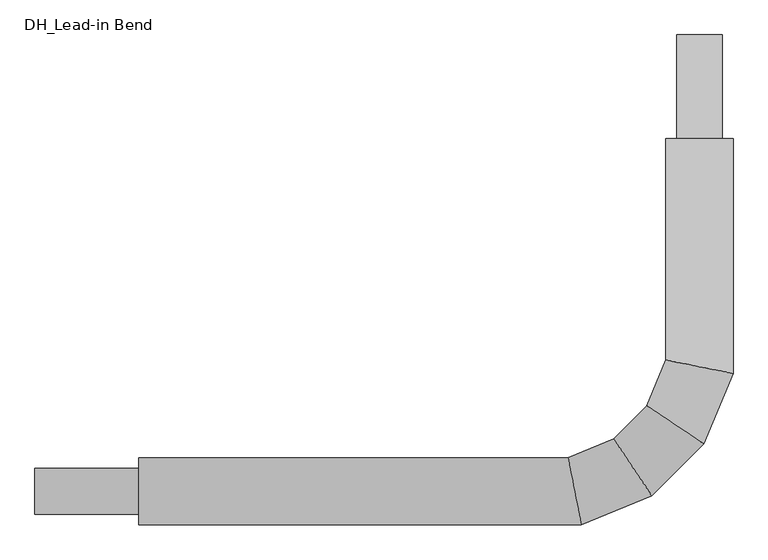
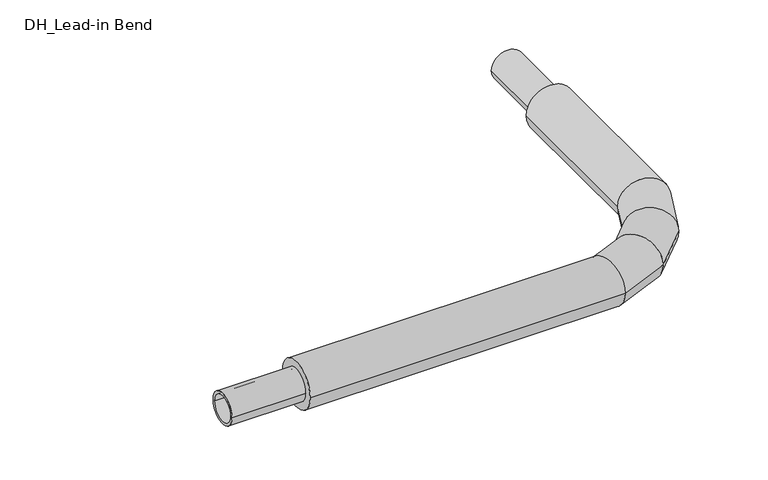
"""IFC4 building model written with IfcOpenShell, lengths in millimetres: pipe fitting geometry, DH_Lead-in Bend : RVT/RVX/RTX UNO 11 Heating."""

from ifc_helpers import new_model, si_unit, point, frame, origin, origin_2d, place, context, project, spatial, circle_curve, ellipse_curve, trimmed, segment, composite_curve, outline, extrude, source, transform, mapped, element, save
from ifc_brep_helpers import plane_surface, cylinder_surface, advanced_brep


def dh_lead_in_bend_a448e4b1(model_context):
    return source(origin(), model_context, "Body", "SolidModel", [
        advanced_brep(
        [(-1350.0, -81.0, 0.0), (-1350.0, 81.0, 0.0), (-284.2880982, -81.0, 0.0), (-316.5119018, 81.0, 0.0), (81.0, 850.0, 0.0), (-81.0, 850.0, 0.0), (-81.0, 316.5119018, 0.0), (81.0, 284.2880982, 0.0), (-114.5530675, -10.6934483, 0.0), (-206.3186961, 126.6435203, 0.0), (10.6934483, 114.5530675, 0.0), (-126.6435203, 206.3186961, 0.0)],
        [
            (0, 1, circle_curve(frame((-1350.0, 0.0, 0.0), z_axis=(-1.0, 0.0, 0.0), x_axis=(0.0, 1.0, 0.0)), 81.0)),
            (1, 0, circle_curve(frame((-1350.0, 0.0, 0.0), z_axis=(-1.0, 0.0, 0.0), x_axis=(0.0, 1.0, 0.0)), 81.0)),
            (0, 2),
            (2, 3, ellipse_curve(frame((-300.4, 0.0, 0.0), z_axis=(-0.9807852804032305, -0.1950903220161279, 0.0), x_axis=(-0.19509032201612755, 0.9807852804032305, 0.0)), 82.5868838, 81.0)),
            (3, 1),
            (3, 2, ellipse_curve(frame((-300.4, 0.0, 0.0), z_axis=(-0.9807852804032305, -0.1950903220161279, 0.0), x_axis=(-0.19509032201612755, 0.9807852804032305, 0.0)), 82.5868838, 81.0)),
            (4, 5, circle_curve(frame((0.0, 850.0, 0.0), z_axis=(0.0, 1.0, 0.0), x_axis=(-1.0, 0.0, 0.0)), 81.0)),
            (5, 4, circle_curve(frame((0.0, 850.0, 0.0), z_axis=(0.0, 1.0, 0.0), x_axis=(-1.0, 0.0, 0.0)), 81.0)),
            (6, 7, ellipse_curve(frame((0.0, 300.4, 0.0), z_axis=(0.19509032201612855, 0.9807852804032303, 0.0), x_axis=(0.9807852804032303, -0.1950903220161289, 0.0)), 82.5868838, 81.0)),
            (7, 4),
            (5, 6),
            (7, 6, ellipse_curve(frame((0.0, 300.4, 0.0), z_axis=(0.19509032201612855, 0.9807852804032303, 0.0), x_axis=(0.9807852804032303, -0.1950903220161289, 0.0)), 82.5868838, 81.0)),
            (2, 8),
            (8, 9, ellipse_curve(frame((-160.4358818, 57.975036, 0.0), z_axis=(-0.8314696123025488, -0.5555702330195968, 0.0), x_axis=(-0.5555702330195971, 0.8314696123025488, 0.0)), 82.5868838, 81.0)),
            (9, 3),
            (9, 8, ellipse_curve(frame((-160.4358818, 57.975036, 0.0), z_axis=(-0.8314696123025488, -0.5555702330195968, 0.0), x_axis=(-0.5555702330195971, 0.8314696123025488, 0.0)), 82.5868838, 81.0)),
            (8, 10),
            (10, 11, ellipse_curve(frame((-57.975036, 160.4358818, 0.0), z_axis=(-0.5555702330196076, -0.8314696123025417, 0.0), x_axis=(-0.8314696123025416, 0.5555702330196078, 0.0)), 82.5868838, 81.0)),
            (11, 9),
            (11, 10, ellipse_curve(frame((-57.975036, 160.4358818, 0.0), z_axis=(-0.5555702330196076, -0.8314696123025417, 0.0), x_axis=(-0.8314696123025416, 0.5555702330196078, 0.0)), 82.5868838, 81.0)),
            (10, 7),
            (6, 11),
        ],
        [
            plane_surface(frame((-1350.0, 0.0, 0.0), z_axis=(-1.0, 0.0, 0.0), x_axis=(0.0, 0.0, 1.0))),
            cylinder_surface(frame((-1350.0, 0.0, 0.0), z_axis=(-1.0, 0.0, 0.0), x_axis=(0.0, 1.0, 0.0)), 81.0),
            plane_surface(frame((0.0, 850.0, 0.0), z_axis=(0.0, 1.0, 0.0), x_axis=(0.0, 0.0, 1.0))),
            cylinder_surface(frame((0.0, 300.4, 0.0), z_axis=(0.0, -1.0, 0.0), x_axis=(-1.0, 0.0, 0.0)), 81.0),
            cylinder_surface(frame((-300.4, 0.0, 0.0), z_axis=(-0.9238795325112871, -0.382683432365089, 0.0), x_axis=(-0.382683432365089, 0.9238795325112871, 0.0)), 81.0),
            cylinder_surface(frame((-160.4358818, 57.975036, 0.0), z_axis=(-0.707106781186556, -0.707106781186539, 0.0), x_axis=(-0.707106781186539, 0.707106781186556, 0.0)), 81.0),
            cylinder_surface(frame((-57.975036, 160.4358818, 0.0), z_axis=(-0.3826834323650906, -0.9238795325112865, 0.0), x_axis=(-0.9238795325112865, 0.3826834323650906, 0.0)), 81.0),
        ],
        [
            (0, [[1, 2]]),
            (1, [[-1, 3, 4, 5]]),
            (1, [[-2, -5, 6, -3]]),
            (2, [[7, 8]]),
            (3, [[9, 10, -8, 11]]),
            (3, [[12, -11, -7, -10]]),
            (4, [[-4, 13, 14, 15]]),
            (4, [[-6, -15, 16, -13]]),
            (5, [[-14, 17, 18, 19]]),
            (5, [[-16, -19, 20, -17]]),
            (6, [[-18, 21, -9, 22]]),
            (6, [[-20, -22, -12, -21]]),
        ],
    ),
        extrude(outline(composite_curve([segment(trimmed(circle_curve(origin_2d(), 55.0), [point((-55.0, 0.0))], [point((55.0, 0.0))], False, "CARTESIAN"), True, "CONTINUOUS"), segment(trimmed(circle_curve(origin_2d(), 55.0), [point((55.0, 0.0))], [point((-55.0, 0.0))], False, "CARTESIAN"), True, "CONTINUOUS")], self_intersect=False), holes=[composite_curve([segment(trimmed(circle_curve(origin_2d(), 45.0), [point((-45.0, 0.0))], [point((45.0, 0.0))], True, "CARTESIAN"), True, "CONTINUOUS"), segment(trimmed(circle_curve(origin_2d(), 45.0), [point((45.0, 0.0))], [point((-45.0, 0.0))], True, "CARTESIAN"), True, "CONTINUOUS")], self_intersect=False)]), frame((-1600.0, 0.0, 0.0), z_axis=(1.0, 0.0, 0.0), x_axis=(0.0, 1.0, 0.0)), (0.0, 0.0, 1.0), 250.0),
        extrude(outline(composite_curve([segment(trimmed(circle_curve(origin_2d(), 55.0), [point((0.0, 55.0))], [point((0.0, -55.0))], False, "CARTESIAN"), True, "CONTINUOUS"), segment(trimmed(circle_curve(origin_2d(), 55.0), [point((0.0, -55.0))], [point((0.0, 55.0))], False, "CARTESIAN"), True, "CONTINUOUS")], self_intersect=False), holes=[composite_curve([segment(trimmed(circle_curve(origin_2d(), 45.0), [point((0.0, 45.0))], [point((0.0, -45.0))], True, "CARTESIAN"), True, "CONTINUOUS"), segment(trimmed(circle_curve(origin_2d(), 45.0), [point((0.0, -45.0))], [point((0.0, 45.0))], True, "CARTESIAN"), True, "CONTINUOUS")], self_intersect=False)]), frame((0.0, 850.0, 0.0), z_axis=(0.0, 1.0, 0.0), x_axis=(0.0, 0.0, 1.0)), (0.0, 0.0, 1.0), 250.0),
    ])


if __name__ == "__main__":
    model = new_model("IFC4")
    model_context = context("Model", 3, world=origin())
    ifc_project = project(units=[si_unit("LENGTHUNIT", "METRE", prefix="MILLI")], contexts=[model_context])
    site = spatial("IfcSite", under=ifc_project)
    building = spatial("IfcBuilding", under=site)
    placement = place(None, origin())
    dh_lead_in_bend_shape = dh_lead_in_bend_a448e4b1(model_context)
    element("IfcPipeFitting", 1, ObjectType="DH_Lead-in Bend : RVT/RVX/RTX UNO 11 Heating", at=placement, inside=building, context=model_context, shape_type="MappedRepresentation", body=[
        mapped(dh_lead_in_bend_shape, transform((0.0, 0.0, 0.0), x_axis=(1.0, 0.0, 0.0), y_axis=(0.0, 1.0, 0.0), z_axis=(0.0, 0.0, 1.0))),
    ])
    save(model, "model.ifc")
